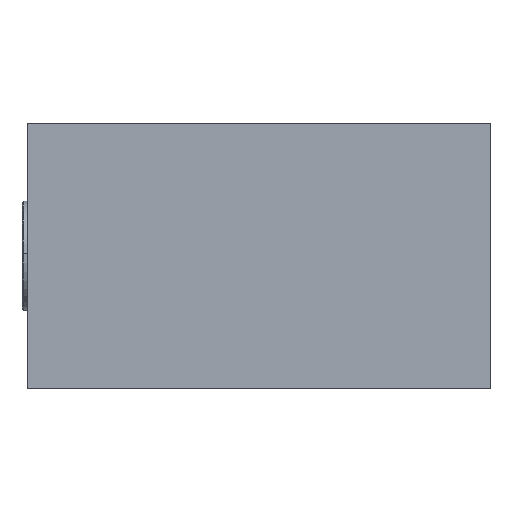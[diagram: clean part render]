
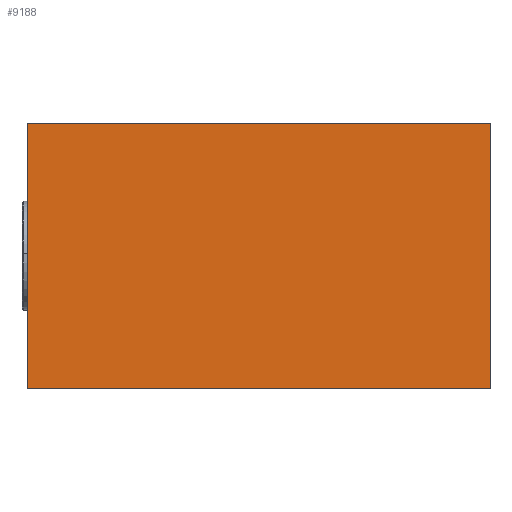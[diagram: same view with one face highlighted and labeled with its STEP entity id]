
A CAD part, left-side view. The second image highlights one B-rep face of the part: STEP entity #9188.
In plain terms, the highlighted planar face has unit normal (-1, 0, 0).
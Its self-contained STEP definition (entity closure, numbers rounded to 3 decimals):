
#101 = CARTESIAN_POINT ( 'NONE',  ( -15., 17.5, 20. ) ) ;
#255 = DIRECTION ( 'NONE',  ( 0., 0., 1. ) ) ;
#650 = CARTESIAN_POINT ( 'NONE',  ( -15., -17.5, 20. ) ) ;
#695 = CARTESIAN_POINT ( 'NONE',  ( -15., 0., 0. ) ) ;
#771 = LINE ( 'NONE', #650, #5772 ) ;
#936 = DIRECTION ( 'NONE',  ( -1., 0., 0. ) ) ;
#1171 = LINE ( 'NONE', #695, #7872 ) ;
#1260 = ORIENTED_EDGE ( 'NONE', *, *, #3793, .F. ) ;
#1320 = DIRECTION ( 'NONE',  ( 0., 0., -1. ) ) ;
#1537 = LINE ( 'NONE', #1958, #4218 ) ;
#1769 = LINE ( 'NONE', #2080, #9300 ) ;
#1958 = CARTESIAN_POINT ( 'NONE',  ( -15., 17.5, 20. ) ) ;
#2080 = CARTESIAN_POINT ( 'NONE',  ( -15., 0., 20. ) ) ;
#2147 = VERTEX_POINT ( 'NONE', #9245 ) ;
#2434 = ORIENTED_EDGE ( 'NONE', *, *, #8287, .T. ) ;
#2727 = EDGE_LOOP ( 'NONE', ( #1260, #6643, #2434, #8325 ) ) ;
#3118 = VERTEX_POINT ( 'NONE', #101 ) ;
#3296 = PLANE ( 'NONE',  #7955 ) ;
#3431 = CARTESIAN_POINT ( 'NONE',  ( -15., -17.5, 0. ) ) ;
#3727 = VERTEX_POINT ( 'NONE', #5593 ) ;
#3773 = EDGE_CURVE ( 'NONE', #3118, #2147, #1537, .T. ) ;
#3793 = EDGE_CURVE ( 'NONE', #9323, #2147, #1171, .T. ) ;
#4218 = VECTOR ( 'NONE', #1320, 1000. ) ;
#4948 = EDGE_CURVE ( 'NONE', #3727, #9323, #771, .T. ) ;
#5593 = CARTESIAN_POINT ( 'NONE',  ( -15., -17.5, 20. ) ) ;
#5772 = VECTOR ( 'NONE', #8474, 1000. ) ;
#6198 = DIRECTION ( 'NONE',  ( 0., 1., 0. ) ) ;
#6353 = CARTESIAN_POINT ( 'NONE',  ( -15., 0., 20. ) ) ;
#6643 = ORIENTED_EDGE ( 'NONE', *, *, #4948, .F. ) ;
#7589 = FACE_OUTER_BOUND ( 'NONE', #2727, .T. ) ;
#7872 = VECTOR ( 'NONE', #6198, 1000. ) ;
#7955 = AXIS2_PLACEMENT_3D ( 'NONE', #6353, #936, #255 ) ;
#8287 = EDGE_CURVE ( 'NONE', #3727, #3118, #1769, .T. ) ;
#8325 = ORIENTED_EDGE ( 'NONE', *, *, #3773, .T. ) ;
#8396 = DIRECTION ( 'NONE',  ( 0., 1., 0. ) ) ;
#8474 = DIRECTION ( 'NONE',  ( 0., 0., -1. ) ) ;
#9188 = ADVANCED_FACE ( 'NONE', ( #7589 ), #3296, .T. ) ;
#9245 = CARTESIAN_POINT ( 'NONE',  ( -15., 17.5, 0. ) ) ;
#9300 = VECTOR ( 'NONE', #8396, 1000. ) ;
#9323 = VERTEX_POINT ( 'NONE', #3431 ) ;
